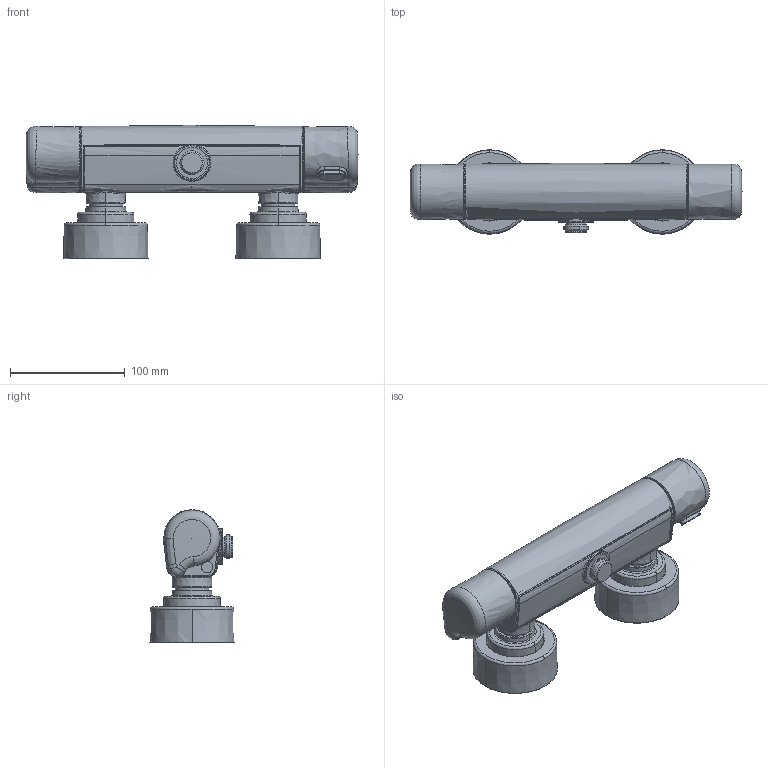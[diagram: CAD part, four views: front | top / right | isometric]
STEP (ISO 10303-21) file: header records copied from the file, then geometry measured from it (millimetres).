
FILE_DESCRIPTION (( 'STEP AP203' ), '1' );
FILE_NAME ('5760(2020).STEP', '2020-01-22T07:55:51', ( '' ), ( '' ), 'SwSTEP 2.0', 'SolidWorks 2016', '' );
FILE_SCHEMA (( 'CONFIG_CONTROL_DESIGN' ));
Length unit declared in the file: millimetre
Products named in the file (1): 5760(2020)
Bounding box: 288.96 x 73.47 x 115.93 mm (x, y, z)
Volume: 515809.6 mm3; surface area: 175743.2 mm2
Topology: 13 solids, 13 shells, 704 faces, 1724 edges, 1053 vertices
Faces by surface type: bspline 220, cylinder 204, plane 116, torus 90, cone 46, sphere 28
Entity records: 43592 total; most frequent: CARTESIAN_POINT 28737, ORIENTED_EDGE 3420, DIRECTION 2679, EDGE_CURVE 1710, AXIS2_PLACEMENT_3D 1149, VERTEX_POINT 1049, EDGE_LOOP 727, ADVANCED_FACE 704
